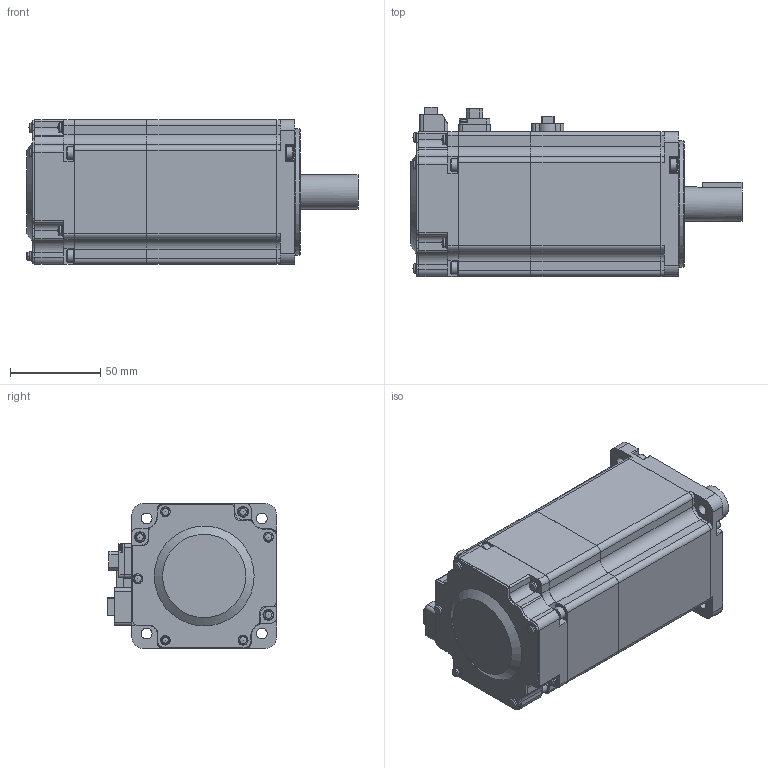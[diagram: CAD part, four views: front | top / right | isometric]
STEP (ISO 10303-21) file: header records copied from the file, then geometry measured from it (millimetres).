
FILE_DESCRIPTION( ( 'STEP AP214' ), '1' );
FILE_NAME( 'e:/temp/worker_216/temp/exporttempdir_3076_1260_qPdTc/format_0/MSMF082L1V1.stp', '2021-12-22T09:04:31', ( 'License CC BY-ND 4.0' ), ( 'CADENAS' ), ' ', 'PARTsolutions', ' ' );
FILE_SCHEMA( ( 'AUTOMOTIVE_DESIGN { 1 0 10303 214 1 1 1 1 }' ) );
Length unit declared in the file: millimetre
Products named in the file (2): MSMF082L1V1; _MSME082G1V(12)
Assembly tree (1 placements, depth 2):
  MSMF082L1V1
    _MSME082G1V(12)
Bounding box: 183.55 x 93.5 x 80 mm (x, y, z)
Volume: 851032 mm3; surface area: 71055.6 mm2
Topology: 1 solids, 1 shells, 722 faces, 1884 edges, 1237 vertices
Faces by surface type: plane 433, cylinder 243, cone 23, bspline 12, torus 11
Full cylindrical faces by diameter (mm): 1.5 x2, 2 x2, 2.3 x4, 2.7 x4, 4.134 x1, 4.3 x2, 4.4 x2, 4.8 x1, 5 x1, 5.35 x1, 5.5 x5, 6 x9, 7 x8, 8 x8, 19 x1, 25 x1, 70 x1
Entity records: 27655 total; most frequent: CARTESIAN_POINT 4074, DIRECTION 3723, ORIENTED_EDGE 3530, EDGE_CURVE 1765, AXIS2_PLACEMENT_3D 1247, VERTEX_POINT 1230, LINE 1229, VECTOR 1229
